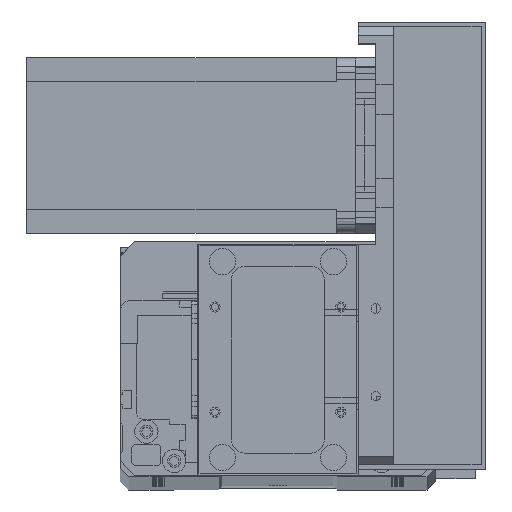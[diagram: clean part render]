
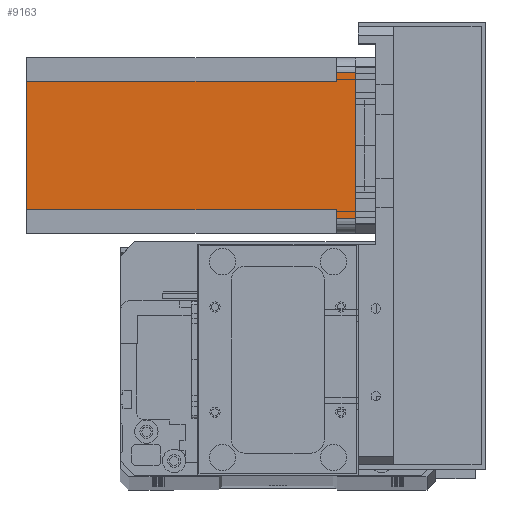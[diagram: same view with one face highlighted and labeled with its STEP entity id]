
A CAD part, top view. The second image highlights one B-rep face of the part: STEP entity #9163.
In plain terms, the highlighted planar face has unit normal (0, 0, 1) as drawn and (0, 1, 0) by its records, which use the part's own axes.
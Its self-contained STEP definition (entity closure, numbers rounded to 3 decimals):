
#28 = VERTEX_POINT ( 'NONE', #19707 ) ;
#143 = VERTEX_POINT ( 'NONE', #8927 ) ;
#977 = LINE ( 'NONE', #31749, #21098 ) ;
#1279 = DIRECTION ( 'NONE',  ( 1., 0., 0. ) ) ;
#1355 = PLANE ( 'NONE',  #32735 ) ;
#1598 = DIRECTION ( 'NONE',  ( -1., 0., 0. ) ) ;
#2623 = DIRECTION ( 'NONE',  ( 0., 0., 1. ) ) ;
#2761 = VERTEX_POINT ( 'NONE', #9713 ) ;
#3831 = ORIENTED_EDGE ( 'NONE', *, *, #11088, .F. ) ;
#4170 = ORIENTED_EDGE ( 'NONE', *, *, #18632, .F. ) ;
#4508 = VECTOR ( 'NONE', #1598, 1000. ) ;
#5853 = VECTOR ( 'NONE', #23105, 1000. ) ;
#5887 = LINE ( 'NONE', #30690, #10383 ) ;
#6513 = ORIENTED_EDGE ( 'NONE', *, *, #21516, .T. ) ;
#7675 = VECTOR ( 'NONE', #1279, 1000. ) ;
#7696 = CARTESIAN_POINT ( 'NONE',  ( 55., 60., -112.5 ) ) ;
#7749 = LINE ( 'NONE', #31274, #27847 ) ;
#8176 = ORIENTED_EDGE ( 'NONE', *, *, #13137, .T. ) ;
#8927 = CARTESIAN_POINT ( 'NONE',  ( 55., 60., -6.5 ) ) ;
#9042 = VERTEX_POINT ( 'NONE', #13959 ) ;
#9163 = ADVANCED_FACE ( 'NONE', ( #12279 ), #1355, .T. ) ;
#9590 = ORIENTED_EDGE ( 'NONE', *, *, #20292, .F. ) ;
#9713 = CARTESIAN_POINT ( 'NONE',  ( 8., 60., -6.5 ) ) ;
#9777 = CARTESIAN_POINT ( 'NONE',  ( 8., 60., -112.5 ) ) ;
#10383 = VECTOR ( 'NONE', #12478, 1000. ) ;
#11088 = EDGE_CURVE ( 'NONE', #23464, #143, #14621, .T. ) ;
#11483 = LINE ( 'NONE', #11923, #4508 ) ;
#11509 = CARTESIAN_POINT ( 'NONE',  ( 55., 60., 0. ) ) ;
#11923 = CARTESIAN_POINT ( 'NONE',  ( 0., 60., 0. ) ) ;
#12279 = FACE_OUTER_BOUND ( 'NONE', #30711, .T. ) ;
#12478 = DIRECTION ( 'NONE',  ( -1., 0., 0. ) ) ;
#13137 = EDGE_CURVE ( 'NONE', #16360, #25523, #977, .T. ) ;
#13516 = EDGE_CURVE ( 'NONE', #2761, #16360, #5887, .T. ) ;
#13959 = CARTESIAN_POINT ( 'NONE',  ( 52., 60., -112.5 ) ) ;
#14532 = DIRECTION ( 'NONE',  ( 0., 1., 0. ) ) ;
#14621 = LINE ( 'NONE', #27427, #7675 ) ;
#14795 = VECTOR ( 'NONE', #16022, 1000. ) ;
#16022 = DIRECTION ( 'NONE',  ( -1., 0., 0. ) ) ;
#16360 = VERTEX_POINT ( 'NONE', #33934 ) ;
#16825 = ORIENTED_EDGE ( 'NONE', *, *, #24896, .T. ) ;
#18632 = EDGE_CURVE ( 'NONE', #19753, #25523, #11483, .T. ) ;
#19707 = CARTESIAN_POINT ( 'NONE',  ( 8., 60., -112.5 ) ) ;
#19753 = VERTEX_POINT ( 'NONE', #11509 ) ;
#19795 = LINE ( 'NONE', #9777, #5853 ) ;
#20292 = EDGE_CURVE ( 'NONE', #9042, #23464, #7749, .T. ) ;
#21098 = VECTOR ( 'NONE', #23970, 1000. ) ;
#21301 = CARTESIAN_POINT ( 'NONE',  ( 5., 60., 0. ) ) ;
#21342 = CARTESIAN_POINT ( 'NONE',  ( 0., 60., -112.5 ) ) ;
#21516 = EDGE_CURVE ( 'NONE', #19753, #143, #26525, .T. ) ;
#23105 = DIRECTION ( 'NONE',  ( 0., 0., -1. ) ) ;
#23432 = LINE ( 'NONE', #21342, #14795 ) ;
#23464 = VERTEX_POINT ( 'NONE', #33455 ) ;
#23970 = DIRECTION ( 'NONE',  ( 0., 0., 1. ) ) ;
#24896 = EDGE_CURVE ( 'NONE', #9042, #28, #23432, .T. ) ;
#24966 = CARTESIAN_POINT ( 'NONE',  ( 0., 60., -112.5 ) ) ;
#25181 = ORIENTED_EDGE ( 'NONE', *, *, #13516, .T. ) ;
#25523 = VERTEX_POINT ( 'NONE', #21301 ) ;
#26525 = LINE ( 'NONE', #7696, #33484 ) ;
#27427 = CARTESIAN_POINT ( 'NONE',  ( 52., 60., -6.5 ) ) ;
#27820 = EDGE_CURVE ( 'NONE', #2761, #28, #19795, .T. ) ;
#27847 = VECTOR ( 'NONE', #2623, 1000. ) ;
#28573 = DIRECTION ( 'NONE',  ( 0., 0., -1. ) ) ;
#29186 = ORIENTED_EDGE ( 'NONE', *, *, #27820, .F. ) ;
#30690 = CARTESIAN_POINT ( 'NONE',  ( 8., 60., -6.5 ) ) ;
#30711 = EDGE_LOOP ( 'NONE', ( #4170, #6513, #3831, #9590, #16825, #29186, #25181, #8176 ) ) ;
#31274 = CARTESIAN_POINT ( 'NONE',  ( 52., 60., -112.5 ) ) ;
#31749 = CARTESIAN_POINT ( 'NONE',  ( 5., 60., -112.5 ) ) ;
#32735 = AXIS2_PLACEMENT_3D ( 'NONE', #24966, #14532, #32872 ) ;
#32872 = DIRECTION ( 'NONE',  ( 0., 0., 1. ) ) ;
#33455 = CARTESIAN_POINT ( 'NONE',  ( 52., 60., -6.5 ) ) ;
#33484 = VECTOR ( 'NONE', #28573, 1000. ) ;
#33934 = CARTESIAN_POINT ( 'NONE',  ( 5., 60., -6.5 ) ) ;
